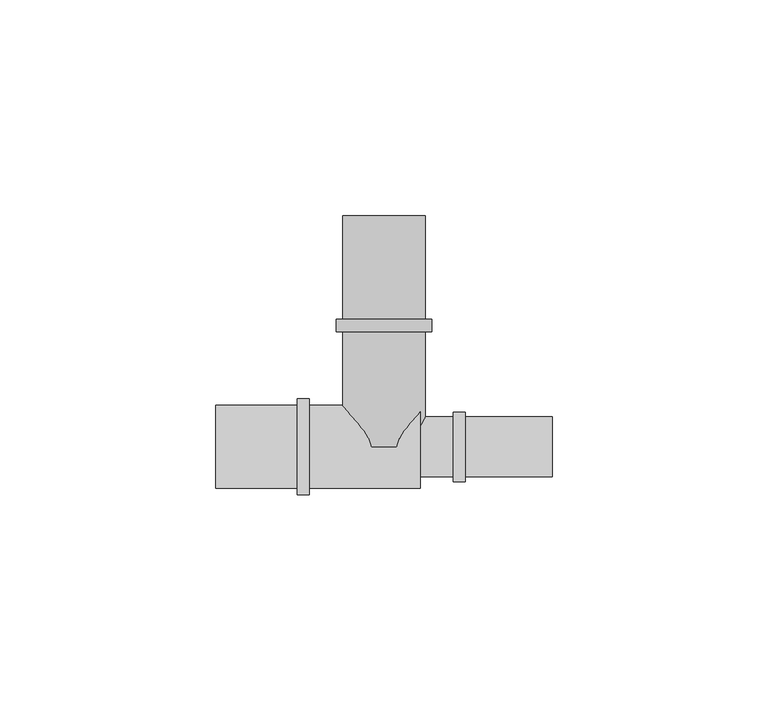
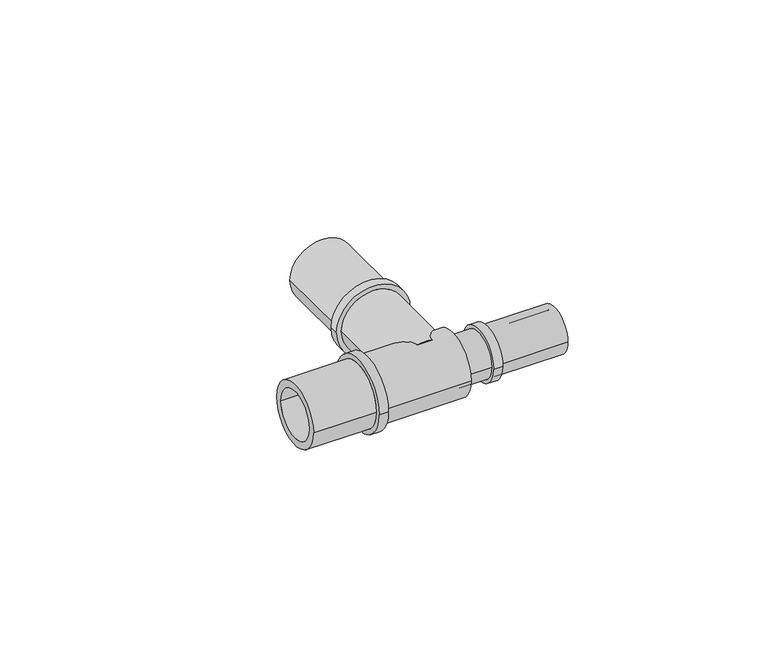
"""IFC4 building model written with IfcOpenShell, lengths in millimetres: pipe fitting geometry, FASTLOC_T-piece_LX : FSL T-Piece LX PL."""

from ifc_helpers import new_model, si_unit, frame, origin, place, context, project, spatial, polyline, circle_curve, source, transform, mapped, element, save
from ifc_brep_helpers import plane_surface, cylinder_surface, revolved_surface, advanced_brep


def pipe_fitting_55165755(model_context):
    return source(origin(), model_context, "Body", "AdvancedBrep", [
        advanced_brep(
        [(7.35, 53.5, 0.0), (-7.35, 53.5, 0.0), (-7.35, 0.0, 0.0), (7.35, 0.0, 0.0), (9.6, 0.0, 0.0), (-9.6, 0.0, 0.0), (-9.6, 26.7, 0.0), (9.6, 26.7, 0.0), (11.1, 26.7, 0.0), (-11.1, 26.7, 0.0), (-11.1, 29.5, 0.0), (11.1, 29.5, 0.0), (9.6, 29.5, 0.0), (-9.6, 29.5, 0.0), (-9.6, 53.5, 0.0), (9.6, 53.5, 0.0)],
        [
            (0, 1, circle_curve(frame((0.0, 53.5, 0.0), z_axis=(0.0, 1.0, 0.0), x_axis=(-1.0, 0.0, 0.0)), 7.35)),
            (1, 2),
            (2, 3, circle_curve(frame((0.0, 0.0, 0.0), z_axis=(0.0, -1.0, 0.0), x_axis=(-1.0, 0.0, 0.0)), 7.35)),
            (3, 0),
            (4, 5, circle_curve(frame((0.0, 0.0, 0.0), z_axis=(0.0, 1.0, 0.0), x_axis=(-1.0, 0.0, 0.0)), 9.6)),
            (5, 6),
            (6, 7, circle_curve(frame((0.0, 26.7, 0.0), z_axis=(0.0, -1.0, 0.0), x_axis=(-1.0, 0.0, 0.0)), 9.6)),
            (7, 4),
            (8, 9, circle_curve(frame((0.0, 26.7, 0.0), z_axis=(0.0, 1.0, 0.0), x_axis=(-1.0, 0.0, 0.0)), 11.1)),
            (9, 10),
            (10, 11, circle_curve(frame((0.0, 29.5, 0.0), z_axis=(0.0, -1.0, 0.0), x_axis=(-1.0, 0.0, 0.0)), 11.1)),
            (11, 8),
            (12, 13, circle_curve(frame((0.0, 29.5, 0.0), z_axis=(0.0, 1.0, 0.0), x_axis=(-1.0, 0.0, 0.0)), 9.6)),
            (13, 14),
            (14, 15, circle_curve(frame((0.0, 53.5, 0.0), z_axis=(0.0, -1.0, 0.0), x_axis=(-1.0, 0.0, 0.0)), 9.6)),
            (15, 12),
            (1, 0, circle_curve(frame((0.0, 53.5, 0.0), z_axis=(0.0, 1.0, 0.0), x_axis=(1.0, 0.0, 0.0)), 7.35)),
            (3, 2, circle_curve(frame((0.0, 0.0, 0.0), z_axis=(0.0, -1.0, 0.0), x_axis=(1.0, 0.0, 0.0)), 7.35)),
            (4, 5, circle_curve(frame((0.0, 0.0, 0.0), z_axis=(0.0, -1.0, 0.0), x_axis=(1.0, 0.0, 0.0)), 9.6)),
            (7, 6, circle_curve(frame((0.0, 26.7, 0.0), z_axis=(0.0, -1.0, 0.0), x_axis=(1.0, 0.0, 0.0)), 9.6)),
            (8, 9, circle_curve(frame((0.0, 26.7, 0.0), z_axis=(0.0, -1.0, 0.0), x_axis=(1.0, 0.0, 0.0)), 11.1)),
            (11, 10, circle_curve(frame((0.0, 29.5, 0.0), z_axis=(0.0, -1.0, 0.0), x_axis=(1.0, 0.0, 0.0)), 11.1)),
            (12, 13, circle_curve(frame((0.0, 29.5, 0.0), z_axis=(0.0, -1.0, 0.0), x_axis=(1.0, 0.0, 0.0)), 9.6)),
            (15, 14, circle_curve(frame((0.0, 53.5, 0.0), z_axis=(0.0, -1.0, 0.0), x_axis=(1.0, 0.0, 0.0)), 9.6)),
        ],
        [
            revolved_surface(polyline([(-7.35, 0.0, 0.0), (-7.35, 53.5, 0.0)]), (0.0, 0.0, 0.0), (0.0, -1.0, 0.0)),
            cylinder_surface(frame((0.0, 0.0, 0.0), z_axis=(0.0, -1.0, 0.0), x_axis=(-1.0, 0.0, 0.0)), 9.6),
            cylinder_surface(frame((0.0, 0.0, 0.0), z_axis=(0.0, -1.0, 0.0), x_axis=(-1.0, 0.0, 0.0)), 11.1),
            revolved_surface(polyline([(7.35, 0.0, 0.0), (7.35, 53.5, 0.0)]), (0.0, 0.0, 0.0), (0.0, -1.0, 0.0)),
            plane_surface(frame((0.0, 0.0, 0.0), z_axis=(0.0, -1.0, 0.0), x_axis=(1.0, 0.0, 0.0))),
            cylinder_surface(frame((0.0, 0.0, 0.0), z_axis=(0.0, -1.0, 0.0), x_axis=(1.0, 0.0, 0.0)), 9.6),
            plane_surface(frame((0.0, 26.7, 0.0), z_axis=(0.0, -1.0, 0.0), x_axis=(1.0, 0.0, 0.0))),
            cylinder_surface(frame((0.0, 0.0, 0.0), z_axis=(0.0, -1.0, 0.0), x_axis=(1.0, 0.0, 0.0)), 11.1),
            plane_surface(frame((0.0, 29.5, 0.0), z_axis=(0.0, 1.0, 0.0), x_axis=(1.0, 0.0, 0.0))),
            plane_surface(frame((0.0, 53.5, 0.0), z_axis=(0.0, 1.0, 0.0), x_axis=(1.0, 0.0, 0.0))),
        ],
        [
            (0, [[1, 2, 3, 4]]),
            (1, [[5, 6, 7, 8]]),
            (2, [[9, 10, 11, 12]]),
            (1, [[13, 14, 15, 16]]),
            (3, [[17, -4, 18, -2]]),
            (4, [[19, -5], [-18, -3]]),
            (5, [[-19, -8, 20, -6]]),
            (6, [[21, -9], [-20, -7]]),
            (7, [[-21, -12, 22, -10]]),
            (8, [[-22, -11], [23, -13]]),
            (5, [[-23, -16, 24, -14]]),
            (9, [[-24, -15], [-17, -1]]),
        ],
    ),
        advanced_brep(
        [(16.09, 6.95, 0.0), (16.09, -6.95, 0.0), (8.35, -6.95, 0.0), (8.35, 6.95, 0.0), (18.8, 8.05, 0.0), (18.8, -8.05, 0.0), (16.09, -8.05, 0.0), (16.09, 8.05, 0.0), (38.95, 6.95, 0.0), (38.95, -6.95, 0.0), (18.8, -6.95, 0.0), (18.8, 6.95, 0.0), (6.5, 5.1, 0.0), (6.5, -5.1, 0.0), (38.95, -5.1, 0.0), (38.95, 5.1, 0.0), (-38.95, 7.35, 0.0), (-38.95, -7.35, 0.0), (6.5, -7.35, 0.0), (6.5, 7.35, 0.0), (-20.1, 9.6, 0.0), (-20.1, -9.6, 0.0), (-38.95, -9.6, 0.0), (-38.95, 9.6, 0.0), (-17.3, 11.1, 0.0), (-17.3, -11.1, 0.0), (-20.1, -11.1, 0.0), (-20.1, 11.1, 0.0), (8.35, 9.6, 0.0), (8.35, -9.6, 0.0), (-17.3, -9.6, 0.0), (-17.3, 9.6, 0.0)],
        [
            (0, 1, circle_curve(frame((16.09, 0.0, 0.0), z_axis=(-1.0, 0.0, 0.0), x_axis=(0.0, -1.0, 0.0)), 6.95)),
            (1, 2),
            (2, 3, circle_curve(frame((8.35, 0.0, 0.0), z_axis=(1.0, 0.0, 0.0), x_axis=(0.0, -1.0, 0.0)), 6.95)),
            (3, 0),
            (4, 5, circle_curve(frame((18.8, 0.0, 0.0), z_axis=(-1.0, 0.0, 0.0), x_axis=(0.0, -1.0, 0.0)), 8.05)),
            (5, 6),
            (6, 7, circle_curve(frame((16.09, 0.0, 0.0), z_axis=(1.0, 0.0, 0.0), x_axis=(0.0, -1.0, 0.0)), 8.05)),
            (7, 4),
            (8, 9, circle_curve(frame((38.95, 0.0, 0.0), z_axis=(-1.0, 0.0, 0.0), x_axis=(0.0, -1.0, 0.0)), 6.95)),
            (9, 10),
            (10, 11, circle_curve(frame((18.8, 0.0, 0.0), z_axis=(1.0, 0.0, 0.0), x_axis=(0.0, -1.0, 0.0)), 6.95)),
            (11, 8),
            (12, 13, circle_curve(frame((6.5, 0.0, 0.0), z_axis=(-1.0, 0.0, 0.0), x_axis=(0.0, -1.0, 0.0)), 5.1)),
            (13, 14),
            (14, 15, circle_curve(frame((38.95, 0.0, 0.0), z_axis=(1.0, 0.0, 0.0), x_axis=(0.0, -1.0, 0.0)), 5.1)),
            (15, 12),
            (16, 17, circle_curve(frame((-38.95, 0.0, 0.0), z_axis=(-1.0, 0.0, 0.0), x_axis=(0.0, -1.0, 0.0)), 7.35)),
            (17, 18),
            (18, 19, circle_curve(frame((6.5, 0.0, 0.0), z_axis=(1.0, 0.0, 0.0), x_axis=(0.0, -1.0, 0.0)), 7.35)),
            (19, 16),
            (20, 21, circle_curve(frame((-20.1, 0.0, 0.0), z_axis=(-1.0, 0.0, 0.0), x_axis=(0.0, -1.0, 0.0)), 9.6)),
            (21, 22),
            (22, 23, circle_curve(frame((-38.95, 0.0, 0.0), z_axis=(1.0, 0.0, 0.0), x_axis=(0.0, -1.0, 0.0)), 9.6)),
            (23, 20),
            (24, 25, circle_curve(frame((-17.3, 0.0, 0.0), z_axis=(-1.0, 0.0, 0.0), x_axis=(0.0, -1.0, 0.0)), 11.1)),
            (25, 26),
            (26, 27, circle_curve(frame((-20.1, 0.0, 0.0), z_axis=(1.0, 0.0, 0.0), x_axis=(0.0, -1.0, 0.0)), 11.1)),
            (27, 24),
            (28, 29, circle_curve(frame((8.35, 0.0, 0.0), z_axis=(-1.0, 0.0, 0.0), x_axis=(0.0, -1.0, 0.0)), 9.6)),
            (29, 30),
            (30, 31, circle_curve(frame((-17.3, 0.0, 0.0), z_axis=(1.0, 0.0, 0.0), x_axis=(0.0, -1.0, 0.0)), 9.6)),
            (31, 28),
            (28, 29, circle_curve(frame((8.35, 0.0, 0.0), z_axis=(1.0, 0.0, 0.0), x_axis=(0.0, 1.0, 0.0)), 9.6)),
            (2, 3, circle_curve(frame((8.35, 0.0, 0.0), z_axis=(-1.0, 0.0, 0.0), x_axis=(0.0, 1.0, 0.0)), 6.95)),
            (1, 0, circle_curve(frame((16.09, 0.0, 0.0), z_axis=(-1.0, 0.0, 0.0), x_axis=(0.0, 1.0, 0.0)), 6.95)),
            (6, 7, circle_curve(frame((16.09, 0.0, 0.0), z_axis=(-1.0, 0.0, 0.0), x_axis=(0.0, 1.0, 0.0)), 8.05)),
            (5, 4, circle_curve(frame((18.8, 0.0, 0.0), z_axis=(-1.0, 0.0, 0.0), x_axis=(0.0, 1.0, 0.0)), 8.05)),
            (10, 11, circle_curve(frame((18.8, 0.0, 0.0), z_axis=(-1.0, 0.0, 0.0), x_axis=(0.0, 1.0, 0.0)), 6.95)),
            (9, 8, circle_curve(frame((38.95, 0.0, 0.0), z_axis=(-1.0, 0.0, 0.0), x_axis=(0.0, 1.0, 0.0)), 6.95)),
            (14, 15, circle_curve(frame((38.95, 0.0, 0.0), z_axis=(-1.0, 0.0, 0.0), x_axis=(0.0, 1.0, 0.0)), 5.1)),
            (13, 12, circle_curve(frame((6.5, 0.0, 0.0), z_axis=(-1.0, 0.0, 0.0), x_axis=(0.0, 1.0, 0.0)), 5.1)),
            (18, 19, circle_curve(frame((6.5, 0.0, 0.0), z_axis=(-1.0, 0.0, 0.0), x_axis=(0.0, 1.0, 0.0)), 7.35)),
            (17, 16, circle_curve(frame((-38.95, 0.0, 0.0), z_axis=(-1.0, 0.0, 0.0), x_axis=(0.0, 1.0, 0.0)), 7.35)),
            (22, 23, circle_curve(frame((-38.95, 0.0, 0.0), z_axis=(-1.0, 0.0, 0.0), x_axis=(0.0, 1.0, 0.0)), 9.6)),
            (21, 20, circle_curve(frame((-20.1, 0.0, 0.0), z_axis=(-1.0, 0.0, 0.0), x_axis=(0.0, 1.0, 0.0)), 9.6)),
            (26, 27, circle_curve(frame((-20.1, 0.0, 0.0), z_axis=(-1.0, 0.0, 0.0), x_axis=(0.0, 1.0, 0.0)), 11.1)),
            (25, 24, circle_curve(frame((-17.3, 0.0, 0.0), z_axis=(-1.0, 0.0, 0.0), x_axis=(0.0, 1.0, 0.0)), 11.1)),
            (30, 31, circle_curve(frame((-17.3, 0.0, 0.0), z_axis=(-1.0, 0.0, 0.0), x_axis=(0.0, 1.0, 0.0)), 9.6)),
        ],
        [
            cylinder_surface(frame((0.0, 0.0, 0.0), z_axis=(1.0, 0.0, 0.0), x_axis=(0.0, -1.0, 0.0)), 6.95),
            cylinder_surface(frame((0.0, 0.0, 0.0), z_axis=(1.0, 0.0, 0.0), x_axis=(0.0, -1.0, 0.0)), 8.05),
            revolved_surface(polyline([(38.95, -5.1, 0.0), (6.5, -5.1, 0.0)]), (0.0, 0.0, 0.0), (1.0, 0.0, 0.0)),
            revolved_surface(polyline([(6.5, -7.35, 0.0), (-38.95, -7.35, 0.0)]), (0.0, 0.0, 0.0), (1.0, 0.0, 0.0)),
            cylinder_surface(frame((0.0, 0.0, 0.0), z_axis=(1.0, 0.0, 0.0), x_axis=(0.0, -1.0, 0.0)), 9.6),
            cylinder_surface(frame((0.0, 0.0, 0.0), z_axis=(1.0, 0.0, 0.0), x_axis=(0.0, -1.0, 0.0)), 11.1),
            plane_surface(frame((8.35, 0.0, 0.0), z_axis=(1.0, 0.0, 0.0), x_axis=(0.0, 1.0, 0.0))),
            cylinder_surface(frame((0.0, 0.0, 0.0), z_axis=(1.0, 0.0, 0.0), x_axis=(0.0, 1.0, 0.0)), 6.95),
            plane_surface(frame((16.09, 0.0, 0.0), z_axis=(-1.0, 0.0, 0.0), x_axis=(0.0, 1.0, 0.0))),
            cylinder_surface(frame((0.0, 0.0, 0.0), z_axis=(1.0, 0.0, 0.0), x_axis=(0.0, 1.0, 0.0)), 8.05),
            plane_surface(frame((18.8, 0.0, 0.0), z_axis=(1.0, 0.0, 0.0), x_axis=(0.0, 1.0, 0.0))),
            plane_surface(frame((38.95, 0.0, 0.0), z_axis=(1.0, 0.0, 0.0), x_axis=(0.0, 1.0, 0.0))),
            revolved_surface(polyline([(38.95, 5.1, 0.0), (6.5, 5.1, 0.0)]), (0.0, 0.0, 0.0), (1.0, 0.0, 0.0)),
            plane_surface(frame((6.5, 0.0, 0.0), z_axis=(-1.0, 0.0, 0.0), x_axis=(0.0, 1.0, 0.0))),
            revolved_surface(polyline([(6.5, 7.35, 0.0), (-38.95, 7.35, 0.0)]), (0.0, 0.0, 0.0), (1.0, 0.0, 0.0)),
            plane_surface(frame((-38.95, 0.0, 0.0), z_axis=(-1.0, 0.0, 0.0), x_axis=(0.0, 1.0, 0.0))),
            cylinder_surface(frame((0.0, 0.0, 0.0), z_axis=(1.0, 0.0, 0.0), x_axis=(0.0, 1.0, 0.0)), 9.6),
            plane_surface(frame((-20.1, 0.0, 0.0), z_axis=(-1.0, 0.0, 0.0), x_axis=(0.0, 1.0, 0.0))),
            cylinder_surface(frame((0.0, 0.0, 0.0), z_axis=(1.0, 0.0, 0.0), x_axis=(0.0, 1.0, 0.0)), 11.1),
            plane_surface(frame((-17.3, 0.0, 0.0), z_axis=(1.0, 0.0, 0.0), x_axis=(0.0, 1.0, 0.0))),
        ],
        [
            (0, [[1, 2, 3, 4]]),
            (1, [[5, 6, 7, 8]]),
            (0, [[9, 10, 11, 12]]),
            (2, [[13, 14, 15, 16]]),
            (3, [[17, 18, 19, 20]]),
            (4, [[21, 22, 23, 24]]),
            (5, [[25, 26, 27, 28]]),
            (4, [[29, 30, 31, 32]]),
            (6, [[33, -29], [34, -3]]),
            (7, [[35, -4, -34, -2]]),
            (8, [[36, -7], [-35, -1]]),
            (9, [[37, -8, -36, -6]]),
            (10, [[-37, -5], [38, -11]]),
            (7, [[39, -12, -38, -10]]),
            (11, [[-39, -9], [40, -15]]),
            (12, [[41, -16, -40, -14]]),
            (13, [[42, -19], [-41, -13]]),
            (14, [[43, -20, -42, -18]]),
            (15, [[44, -23], [-43, -17]]),
            (16, [[45, -24, -44, -22]]),
            (17, [[46, -27], [-45, -21]]),
            (18, [[47, -28, -46, -26]]),
            (19, [[-47, -25], [48, -31]]),
            (16, [[-33, -32, -48, -30]]),
        ],
    ),
    ])


if __name__ == "__main__":
    model = new_model("IFC4")
    model_context = context("Model", 3, world=origin())
    ifc_project = project(units=[si_unit("LENGTHUNIT", "METRE", prefix="MILLI")], contexts=[model_context])
    site = spatial("IfcSite", under=ifc_project)
    building = spatial("IfcBuilding", under=site)
    placement = place(None, origin())
    pipe_fitting_shape = pipe_fitting_55165755(model_context)
    element("IfcPipeFitting", 1, ObjectType="FASTLOC_T-piece_LX : FSL T-Piece LX PL", at=placement, inside=building, context=model_context, shape_type="MappedRepresentation", body=[
        mapped(pipe_fitting_shape, transform((0.0, 0.0, 0.0), x_axis=(1.0, 0.0, 0.0), y_axis=(0.0, 1.0, 0.0), z_axis=(0.0, 0.0, 1.0))),
    ])
    save(model, "model.ifc")
